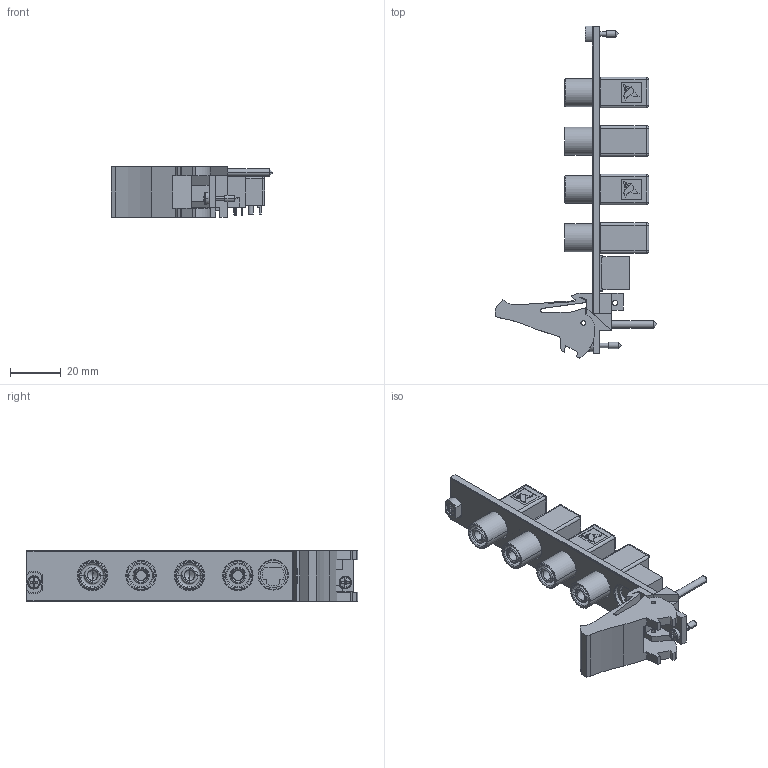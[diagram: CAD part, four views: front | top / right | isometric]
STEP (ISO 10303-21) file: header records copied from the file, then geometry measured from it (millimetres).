
FILE_DESCRIPTION((''),'2;1');
FILE_NAME('CU_PXI_4065','2009-10-21T',('jjorden'),(''),'PRO/ENGINEER BY PARAMETRIC TECHNOLOGY CORPORATION, 2006080','PRO/ENGINEER BY PARAMETRIC TECHNOLOGY CORPORATION, 2006080','');
FILE_SCHEMA(('CONFIG_CONTROL_DESIGN'));
Length unit declared in the file: inch
Products named in the file (1): CU_PXI_4065
Bounding box: 63.53 x 130.5 x 20.02 mm (x, y, z)
Volume: 26558.8 mm3; surface area: 24486.5 mm2
Topology: 6 solids, 6 shells, 769 faces, 1948 edges, 1257 vertices
Faces by surface type: plane 429, cylinder 196, extrusion 72, cone 30, torus 30, sphere 12
Entity records: 24000 total; most frequent: CARTESIAN_POINT 5338, ORIENTED_EDGE 3880, DIRECTION 3713, EDGE_CURVE 1940, VECTOR 1339, LINE 1267, VERTEX_POINT 1257, AXIS2_PLACEMENT_3D 1187
